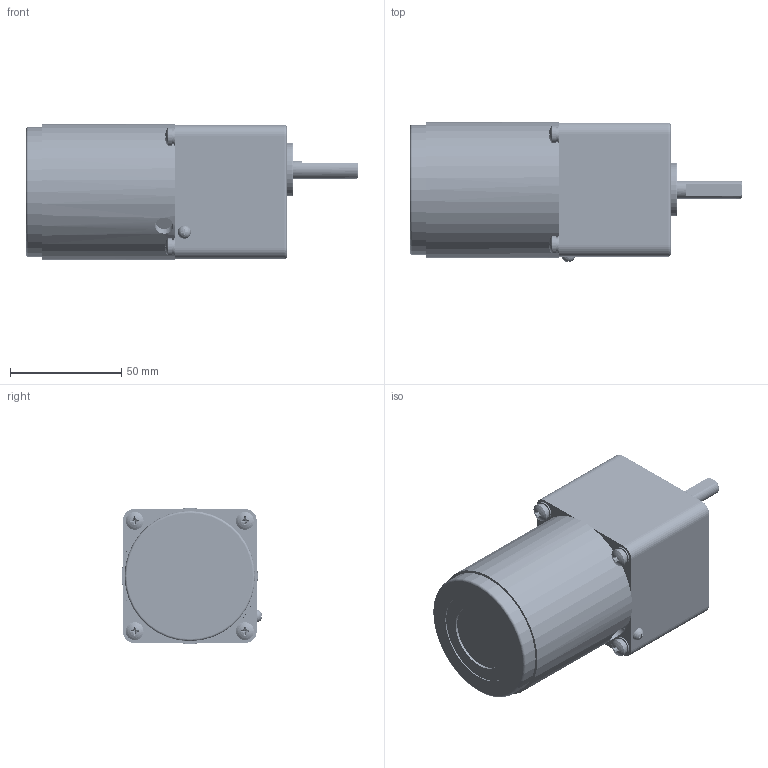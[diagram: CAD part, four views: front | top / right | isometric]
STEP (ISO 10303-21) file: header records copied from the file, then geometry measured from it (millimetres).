
FILE_DESCRIPTION(/* description */ (''),/* implementation_level */ '2;1');
FILE_NAME(/* name */ '60高箱L-6W普通.stp',/* time_stamp */ '2022-10-31T08:29:36+08:00',/* author */ (''),/* organization */ (''),/* preprocessor_version */ 'ST-DEVELOPER v16.7',/* originating_system */ 'SIEMENS PLM Software NX 1899',/* authorisation */ '');
FILE_SCHEMA (('AP203_CONFIGURATION_CONTROLLED_3D_DESIGN_OF_MECHANICAL_PARTS_AND_ASSEMBLIES_MIM_LF { 1 0 10303 403 2 1 2}'));
Products named in the file (1): yf186188FEB6lc1j
Bounding box: 149 x 62.99 x 61 mm (x, y, z)
Volume: 359338.9 mm3; surface area: 46147.6 mm2
Topology: 14 solids, 15 shells, 280 faces, 682 edges, 454 vertices
Faces by surface type: plane 106, bspline 88, cylinder 64, torus 15, sphere 6, cone 1
Full cylindrical faces by diameter (mm): 3 x1, 3.838 x4, 4 x4, 4.3 x4, 6 x5, 8 x9, 8.2 x1, 24 x1, 30 x1, 42 x1, 52.6 x1, 57 x2, 58.5 x1, 61 x1
Entity records: 76556 total; most frequent: CARTESIAN_POINT 70499, ORIENTED_EDGE 1206, DIRECTION 946, EDGE_CURVE 603, VERTEX_POINT 424, AXIS2_PLACEMENT_3D 407, EDGE_LOOP 375, ADVANCED_FACE 280
